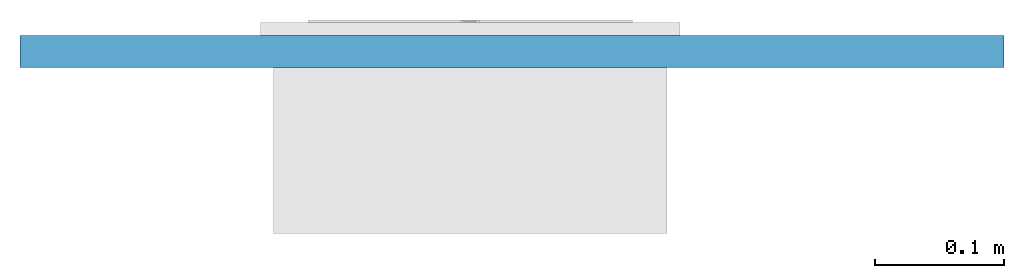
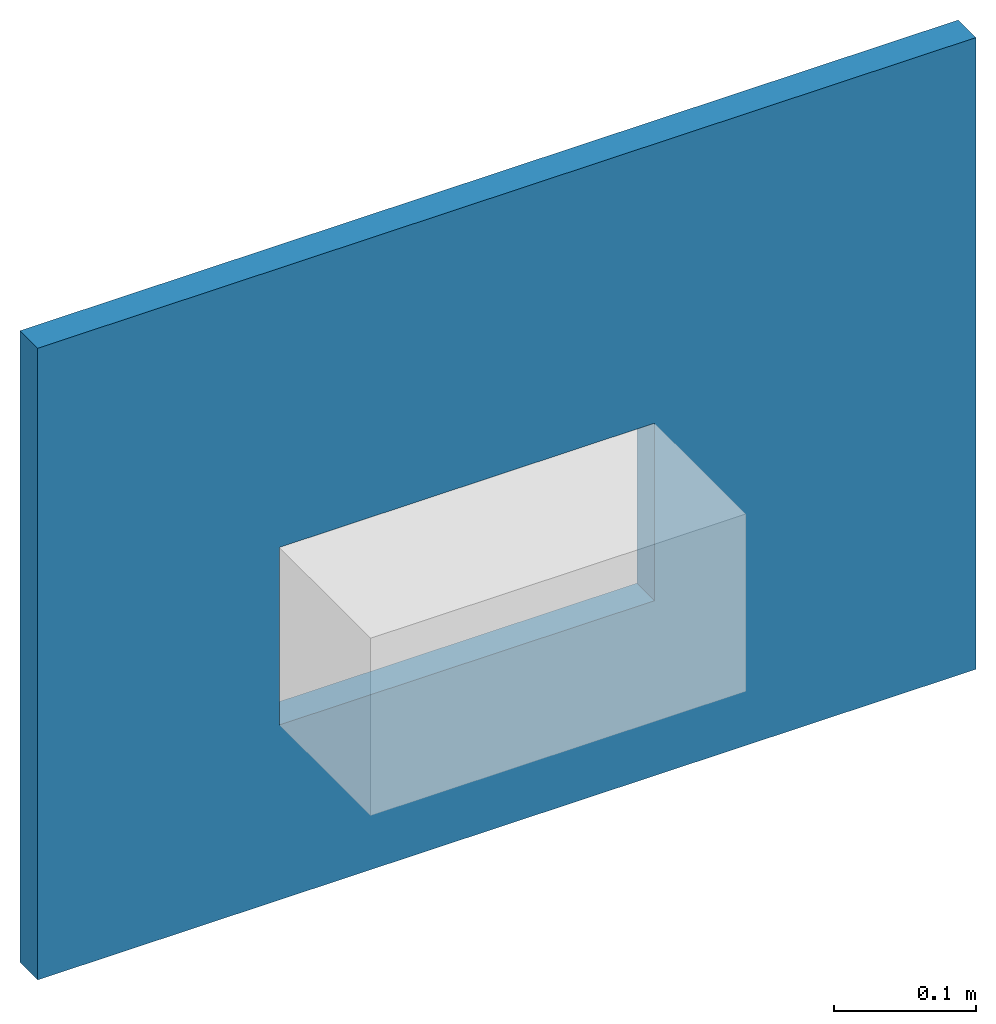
# One storey, part 1 of 2: 1 wall, 1 opening.
"""IFC2X3 building model written with IfcOpenShell, lengths in millimetres."""

import ifcopenshell
import ifcopenshell.guid

model = None  # the IFC model being written
_history = None  # IfcOwnerHistory: only IFC2X3 demands one
_inside = {}  # id of a spatial element -> (the spatial element, [elements in it])
_under = {}  # id of a project, library or spatial element -> (it, [spatial elements below it])
_declared = {}  # id of a project -> (the project, [libraries it declares])
_typed = {}  # id of a type object -> (the type object, [elements of that type])
_made_of = {}  # id of a material, layer set ... -> (it, [elements and type objects made of it])


def new_model(schema):
    """Start an empty IFC model of exactly this schema.

    Asked for "IFC4X3", IfcOpenShell would pick the latest addendum, in which some entities
    have other attributes; the version numbers below select the first issue.
    IFC2X3 requires an IfcOwnerHistory on every rooted entity: one is made here for all.
    """
    global model, _history
    if schema == "IFC4X3":
        model = ifcopenshell.file(schema_version=(4, 3, 0, 0))
    else:
        model = ifcopenshell.file(schema=schema)
    _inside.clear()
    _under.clear()
    _declared.clear()
    _typed.clear()
    _made_of.clear()
    _history = None
    if model.schema == "IFC2X3":
        org = make("IfcOrganization", Name="unknown")
        user = make(
            "IfcPersonAndOrganization",
            ThePerson=make("IfcPerson", FamilyName="unknown"),
            TheOrganization=org,
        )
        app = make(
            "IfcApplication",
            ApplicationDeveloper=org,
            Version="unknown",
            ApplicationFullName="unknown",
            ApplicationIdentifier="unknown",
        )
        _history = make(
            "IfcOwnerHistory",
            OwningUser=user,
            OwningApplication=app,
            ChangeAction="ADDED",
            CreationDate=0,
        )
    return model


def make(cls, **values):
    """One entity of the class cls with the attributes given. An attribute that is None is left unset."""
    return model.create_entity(
        cls, **{name: value for name, value in values.items() if value is not None}
    )


def entity(cls, *values):
    """Any entity or typed value of the class cls, its attributes in the order of the schema. None: left unset."""
    e = model.create_entity(cls)
    for i, value in enumerate(values):
        if value is not None:
            e[i] = value
    return e


def rooted(cls, **values):
    """An entity with a GlobalId (a new one), such as an element, a storey or a relation."""
    return make(cls, GlobalId=ifcopenshell.guid.new(), OwnerHistory=_history, **values)


def si_unit(unit_type, name, prefix=None):
    """IfcSIUnit, for example si_unit("LENGTHUNIT", "METRE", prefix="MILLI")."""
    return make("IfcSIUnit", UnitType=unit_type, Prefix=prefix, Name=name)


def converted_unit(unit_type, name, factor, base, dimensions=None, offset=None):
    """IfcConversionBasedUnit, such as the inch: factor (a typed value) times the base unit."""
    return make(
        "IfcConversionBasedUnit"
        if offset is None
        else "IfcConversionBasedUnitWithOffset",
        ConversionOffset=offset,
        Dimensions=None
        if dimensions is None
        else entity("IfcDimensionalExponents", *dimensions),
        UnitType=unit_type,
        Name=name,
        ConversionFactor=make(
            "IfcMeasureWithUnit", ValueComponent=factor, UnitComponent=base
        ),
    )


def derived_unit(unit_type, elements):
    """IfcDerivedUnit: a product of units, each with its exponent."""
    return make(
        "IfcDerivedUnit",
        Elements=[
            make("IfcDerivedUnitElement", Unit=unit, Exponent=power)
            for unit, power in elements
        ],
        UnitType=unit_type,
    )


def assignment(units):
    """IfcUnitAssignment: the units of a project."""
    return None if units is None else make("IfcUnitAssignment", Units=units)


def point(xyz):
    """IfcCartesianPoint."""
    return None if xyz is None else make("IfcCartesianPoint", Coordinates=xyz)


def direction(xyz):
    """IfcDirection."""
    return None if xyz is None else make("IfcDirection", DirectionRatios=xyz)


def frame(location, z_axis=None, x_axis=None):
    """IfcAxis2Placement3D, a coordinate frame: its origin and axes. An axis left out is left unset."""
    return make(
        "IfcAxis2Placement3D",
        Location=point(location),
        Axis=direction(z_axis),
        RefDirection=direction(x_axis),
    )


def frame_2d(location, x_axis=None):
    """IfcAxis2Placement2D, a coordinate frame in the plane: its origin and x axis."""
    return make(
        "IfcAxis2Placement2D", Location=point(location), RefDirection=direction(x_axis)
    )


def origin():
    """The frame at (0, 0, 0) with its axes left unset."""
    return frame((0.0, 0.0, 0.0))


def place(relative_to, where):
    """IfcLocalPlacement: puts the frame where relative to a parent placement (None: the world)."""
    return make(
        "IfcLocalPlacement", PlacementRelTo=relative_to, RelativePlacement=where
    )


def context(
    kind, dimensions, precision=None, world=None, true_north=None, identifier=None
):
    """IfcGeometricRepresentationContext, for example the 3D "Model" context."""
    return make(
        "IfcGeometricRepresentationContext",
        ContextIdentifier=identifier,
        ContextType=kind,
        CoordinateSpaceDimension=dimensions,
        Precision=precision,
        WorldCoordinateSystem=world,
        TrueNorth=true_north,
    )


def subcontext(parent, identifier, kind, view, scale=None):
    """IfcGeometricRepresentationSubContext, for example "Body" below "Model"."""
    return make(
        "IfcGeometricRepresentationSubContext",
        ContextIdentifier=identifier,
        ContextType=kind,
        ParentContext=parent,
        TargetScale=scale,
        TargetView=view,
    )


def project(units=None, contexts=None):
    """IfcProject with its units and contexts."""
    return rooted(
        "IfcProject",
        Name="project",
        RepresentationContexts=contexts,
        UnitsInContext=assignment(units),
    )


def spatial(cls, under=None, at=None, **own):
    """A site, building, storey or space (cls), placed at a placement, below another one or the project."""
    s = rooted(cls, ObjectPlacement=at, **own)
    if under is not None:
        _under.setdefault(under.id(), (under, []))[1].append(s)
    return s


def profile(cls, at=None, kind="AREA", **sizes):
    """A parametric profile (cls). Its sizes go by their IFC names, for example OverallWidth=200.0."""
    return make(cls, ProfileType=kind, Position=at, **sizes)


def rectangle(**sizes):
    """IfcRectangleProfileDef."""
    return profile("IfcRectangleProfileDef", **sizes)


def extrude(swept, where, along, depth):
    """IfcExtrudedAreaSolid: the profile swept, set in the frame where, extruded along a direction by depth."""
    return make(
        "IfcExtrudedAreaSolid",
        SweptArea=swept,
        Position=where,
        ExtrudedDirection=direction(along),
        Depth=depth,
    )


def shape(context_of_items, identifier, shape_type, items):
    """IfcShapeRepresentation: the items that make up one representation, for example the "Body"."""
    return make(
        "IfcShapeRepresentation",
        ContextOfItems=context_of_items,
        RepresentationIdentifier=identifier,
        RepresentationType=shape_type,
        Items=items,
    )


def material(Name=None, Category=None):
    """IfcMaterial."""
    return make("IfcMaterial", Name=Name, Category=Category)


def layer(
    of_material, thickness, ventilated=None, Name=None, Category=None, Priority=None
):
    """IfcMaterialLayer: one layer of a wall or slab, of a material (None: an air gap)."""
    return make(
        "IfcMaterialLayer",
        Material=of_material,
        LayerThickness=thickness,
        IsVentilated=ventilated,
        Name=Name,
        Category=Category,
        Priority=Priority,
    )


def layer_set(layers, Name=None):
    """IfcMaterialLayerSet."""
    return make("IfcMaterialLayerSet", MaterialLayers=layers, LayerSetName=Name)


def layer_usage(for_layer_set, set_direction, sense, offset, extent=None):
    """IfcMaterialLayerSetUsage: how a layer set lies in its element."""
    return make(
        "IfcMaterialLayerSetUsage",
        ForLayerSet=for_layer_set,
        LayerSetDirection=set_direction,
        DirectionSense=sense,
        OffsetFromReferenceLine=offset,
        ReferenceExtent=extent,
    )


def made_of(thing, what):
    """Note that an element or type object is made of a material, layer set ...; save() writes the relation."""
    if what is not None:
        _made_of.setdefault(what.id(), (what, []))[1].append(thing)
    return thing


def type_object(cls, material=None, **own):
    """A type object (cls), such as IfcWallType, which elements share."""
    return made_of(rooted(cls, **own), material)


def element(
    cls,
    number,
    at=None,
    inside=None,
    cuts=None,
    type_object=None,
    material=None,
    context=None,
    identifier="Body",
    shape_type=None,
    held_by="IfcProductDefinitionShape",
    body=None,
    shapes=None,
    **own,
):
    """One element of the class cls, such as IfcWall. Its Tag is "e" and its number.

    at: its placement. inside: the storey or other place that contains it. cuts: it is an
    opening in that element (IfcRelVoidsElement). A single representation is given by context,
    identifier, shape_type and body (its items); several are given by shapes. held_by: the class
    of the entity that holds the representations. save() writes the other relations.
    """
    e = rooted(cls, Tag="e%d" % number, ObjectPlacement=at, **own)
    if body is not None:
        shapes = [shape(context, identifier, shape_type, body)]
    if shapes is not None:
        e.Representation = make(held_by, Representations=shapes)
    if inside is not None:
        _inside.setdefault(inside.id(), (inside, []))[1].append(e)
    if cuts is not None:
        rooted(
            "IfcRelVoidsElement", RelatingBuildingElement=cuts, RelatedOpeningElement=e
        )
    if type_object is not None:
        _typed.setdefault(type_object.id(), (type_object, []))[1].append(e)
    return made_of(e, material)


def aggregate(whole, parts):
    """IfcRelAggregates: a whole, such as a stair, and the parts it consists of."""
    return rooted("IfcRelAggregates", RelatingObject=whole, RelatedObjects=parts)


def save(model, path):
    """Write the relations noted so far, then the file.

    IfcRelAggregates (storeys below a building ...), IfcRelContainedInSpatialStructure (elements
    in a storey), IfcRelDefinesByType, IfcRelAssociatesMaterial and IfcRelDeclares: one each for
    every whole, place, type object, material and project.
    """
    for whole, parts in _under.values():
        aggregate(whole, parts)
    for where, things in _inside.values():
        rooted(
            "IfcRelContainedInSpatialStructure",
            RelatedElements=things,
            RelatingStructure=where,
        )
    for kind, things in _typed.values():
        rooted("IfcRelDefinesByType", RelatedObjects=things, RelatingType=kind)
    for what, things in _made_of.values():
        rooted("IfcRelAssociatesMaterial", RelatedObjects=things, RelatingMaterial=what)
    for by, libraries in _declared.values():
        rooted("IfcRelDeclares", RelatingContext=by, RelatedDefinitions=libraries)
    model.write(path)


model = new_model("IFC2X3")

# Units and contexts
model_context = context("Model", 3, precision=1e-05, world=origin(), true_north=direction((2.0, 6.12303176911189e-17, 1.0)))
context_of_model = context(None, 3, precision=1e-05, world=origin(), true_north=direction((2.0, 6.12303176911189e-17, 1.0)))
body_context = subcontext(model_context, "Body", "Model", "MODEL_VIEW")
ifc_project = project(units=[si_unit("LENGTHUNIT", "METRE", prefix="MILLI"), si_unit("AREAUNIT", "SQUARE_METRE"), si_unit("VOLUMEUNIT", "CUBIC_METRE"), converted_unit("PLANEANGLEUNIT", "DEGREE", entity("IfcRatioMeasure", 0.0174532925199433), si_unit("PLANEANGLEUNIT", "RADIAN"), dimensions=[0, 0, 0, 0, 0, 0, 0]), si_unit("MASSUNIT", "GRAM", prefix="KILO"), si_unit("TIMEUNIT", "SECOND"), si_unit("THERMODYNAMICTEMPERATUREUNIT", "KELVIN"), derived_unit("THERMALTRANSMITTANCEUNIT", [(si_unit("MASSUNIT", "GRAM", prefix="KILO"), 1), (si_unit("THERMODYNAMICTEMPERATUREUNIT", "KELVIN"), -1), (si_unit("TIMEUNIT", "SECOND"), -3)]), derived_unit("VOLUMETRICFLOWRATEUNIT", [(si_unit("LENGTHUNIT", "METRE"), 3), (si_unit("TIMEUNIT", "SECOND"), -1)]), si_unit("POWERUNIT", "WATT")], contexts=[model_context, context_of_model])

# Site, building, storey
site_placement = place(None, origin())
site = spatial("IfcSite", under=ifc_project, at=site_placement, Name="Default", CompositionType="ELEMENT")
building_placement = place(site_placement, origin())
building = spatial("IfcBuilding", under=site, at=building_placement, CompositionType="ELEMENT")
storey_placement = place(building_placement, origin())
storey = spatial("IfcBuildingStorey", under=building, at=storey_placement, Name="Level 1", CompositionType="ELEMENT", Elevation=0.0)

# Wall, opening
ifc_material = material(Name="Default Wall")
ifc_layer = layer(ifc_material, 25.0)
ifc_layer_set = layer_set([ifc_layer], Name="Basic Wall:Wall 1")
ifc_layer_usage = layer_usage(ifc_layer_set, "AXIS2", "NEGATIVE", 12.5)
wall_type = type_object("IfcWallType", Name="Basic Wall:Wall 1", PredefinedType="STANDARD", material=ifc_layer_set)
wall_placement = place(storey_placement, frame((691.179875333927, 3965.19853342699, -277.372383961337)))
wall = element("IfcWallStandardCase", 1, at=wall_placement, inside=storey, type_object=wall_type, material=ifc_layer_usage, Name="Basic Wall:Wall 1:3092", ObjectType="Basic Wall:Wall 1:1494", context=body_context, shape_type="SweptSolid", body=[
    extrude(rectangle(XDim=765.0, YDim=24.9999999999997, at=frame_2d((382.5, 0.0), x_axis=(-1.0, 0.0))), origin(), (0.0, 0.0, 1.0), 544.56585648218),
])
opening_placement = place(wall_placement, origin())
element("IfcOpeningElement", 2, at=opening_placement, cuts=wall, ObjectType="Opening", context=body_context, shape_type="SweptSolid", body=[
    extrude(rectangle(XDim=153.000000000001, YDim=306.0, at=frame_2d((0.0, 0.0), x_axis=(0.0, 1.0))), frame((350.0, -1511.5, 227.357591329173), z_axis=(0.0, 1.0, 0.0), x_axis=(1.0, 0.0, 0.0)), (0.0, 0.0, 1.0), 3048.0),
])

save(model, "model.ifc")
